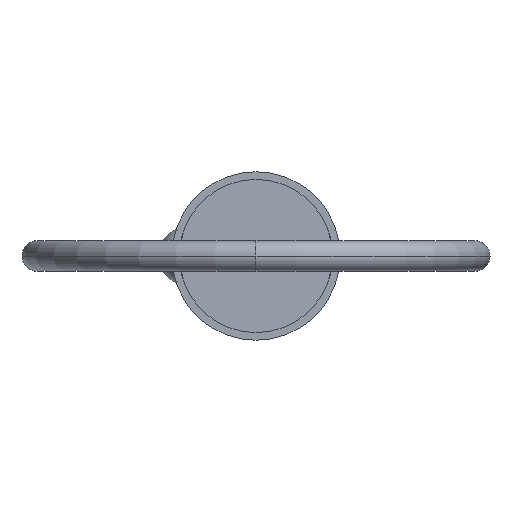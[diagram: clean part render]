
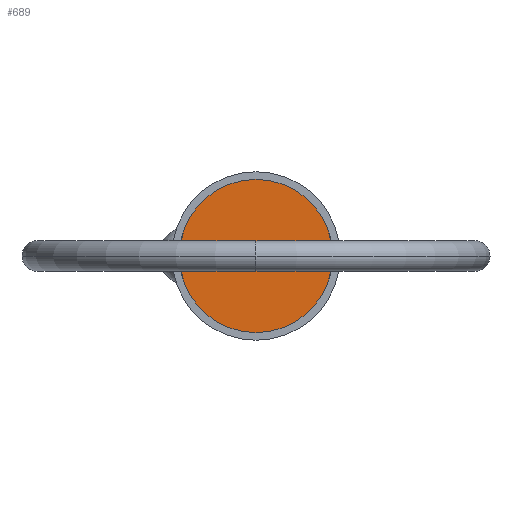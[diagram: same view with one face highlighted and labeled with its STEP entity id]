
A CAD part, left-side view. The second image highlights one B-rep face of the part: STEP entity #689.
In plain terms, the highlighted planar face has unit normal (-1, 0, 0).
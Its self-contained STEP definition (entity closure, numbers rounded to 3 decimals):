
#23 = DIRECTION ( 'NONE',  ( -1., 0., 0. ) ) ;
#45 = ORIENTED_EDGE ( 'NONE', *, *, #1039, .F. ) ;
#104 = FACE_OUTER_BOUND ( 'NONE', #574, .T. ) ;
#148 = AXIS2_PLACEMENT_3D ( 'NONE', #674, #23, #530 ) ;
#178 = DIRECTION ( 'NONE',  ( 0., 0., -1. ) ) ;
#218 = VERTEX_POINT ( 'NONE', #618 ) ;
#343 = PLANE ( 'NONE',  #148 ) ;
#459 = DIRECTION ( 'NONE',  ( 0., 0., -1. ) ) ;
#503 = CARTESIAN_POINT ( 'NONE',  ( 0., 0., 0. ) ) ;
#530 = DIRECTION ( 'NONE',  ( 0., 0., 1. ) ) ;
#574 = EDGE_LOOP ( 'NONE', ( #613, #45 ) ) ;
#613 = ORIENTED_EDGE ( 'NONE', *, *, #897, .F. ) ;
#618 = CARTESIAN_POINT ( 'NONE',  ( 0., 0., -11.115 ) ) ;
#654 = AXIS2_PLACEMENT_3D ( 'NONE', #503, #920, #178 ) ;
#674 = CARTESIAN_POINT ( 'NONE',  ( 0., 0., 0. ) ) ;
#689 = ADVANCED_FACE ( 'NONE', ( #104 ), #343, .T. ) ;
#694 = DIRECTION ( 'NONE',  ( 1., 0., 0. ) ) ;
#773 = AXIS2_PLACEMENT_3D ( 'NONE', #862, #694, #459 ) ;
#844 = CIRCLE ( 'NONE', #773, 11.115 ) ;
#862 = CARTESIAN_POINT ( 'NONE',  ( 0., 0., 0. ) ) ;
#897 = EDGE_CURVE ( 'NONE', #218, #987, #908, .T. ) ;
#908 = CIRCLE ( 'NONE', #654, 11.115 ) ;
#920 = DIRECTION ( 'NONE',  ( 1., 0., 0. ) ) ;
#987 = VERTEX_POINT ( 'NONE', #1037 ) ;
#1037 = CARTESIAN_POINT ( 'NONE',  ( 0., 0., 11.115 ) ) ;
#1039 = EDGE_CURVE ( 'NONE', #987, #218, #844, .T. ) ;
